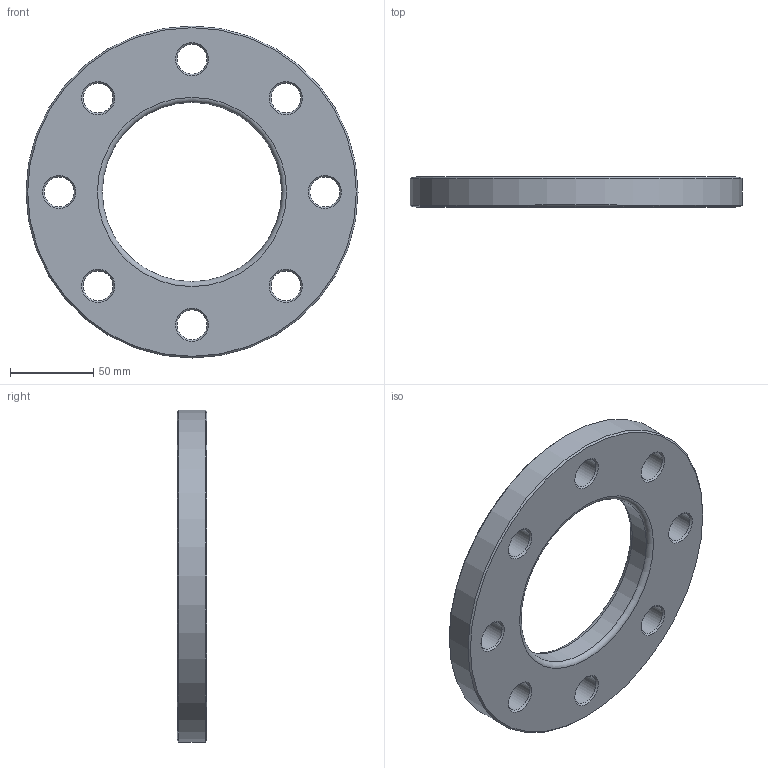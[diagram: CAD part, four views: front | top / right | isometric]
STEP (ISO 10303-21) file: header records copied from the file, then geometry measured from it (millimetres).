
FILE_DESCRIPTION(/* description */ ('Unknown'),/* implementation_level */ '2;1');
FILE_NAME(/* name */ 'FR090C',/* time_stamp */ '2022-07-05T16:37:03+02:00',/* author */ ('Unknown'),/* organization */ ('Unknown'),/* preprocessor_version */ 'ST-DEVELOPER v18.102',/* originating_system */ 'Solid Edge',/* authorisation */ 'Unknown');
FILE_SCHEMA (('AUTOMOTIVE_DESIGN {1 0 10303 214 3 1 1}'));
Length unit declared in the file: millimetre
Products named in the file (1): FR090C
Bounding box: 200 x 18 x 200 mm (x, y, z)
Volume: 361525 mm3; surface area: 63884.9 mm2
Topology: 1 solids, 1 shells, 32 faces, 94 edges, 64 vertices
Faces by surface type: cone 18, cylinder 10, plane 2, torus 2
Full cylindrical faces by diameter (mm): 18 x8, 108 x1, 200 x1
Entity records: 790 total; most frequent: DIRECTION 146, CARTESIAN_POINT 113, ORIENTED_EDGE 80, EDGE_LOOP 80, FACE_BOUND 80, AXIS2_PLACEMENT_3D 73, EDGE_CURVE 40, VERTEX_POINT 40
